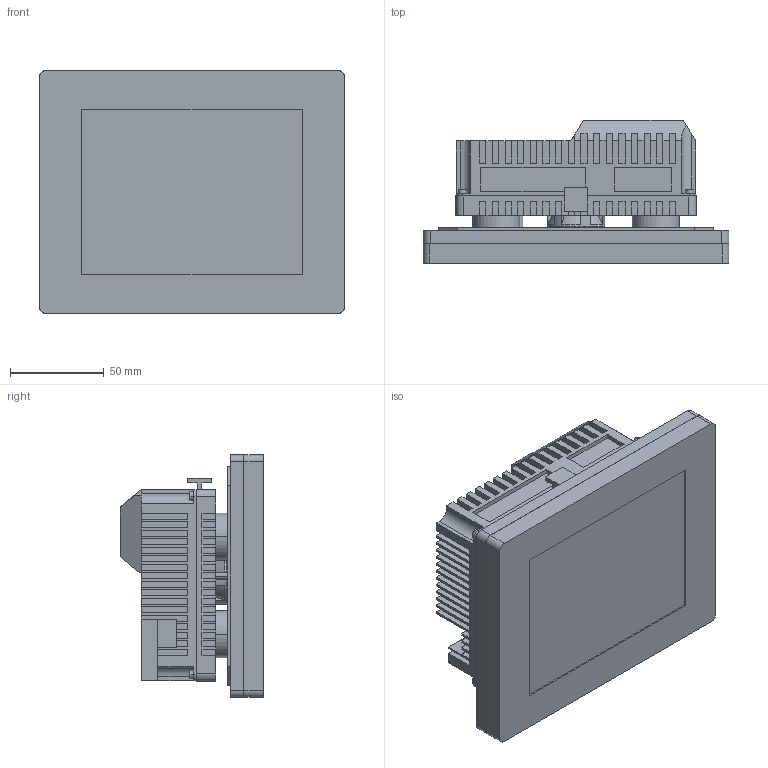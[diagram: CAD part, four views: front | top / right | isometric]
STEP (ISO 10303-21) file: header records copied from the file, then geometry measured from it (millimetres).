
FILE_DESCRIPTION(('starvars output'),'2;1');
FILE_NAME('cv20151130142933000028013.stp','14:29:34 2015/11/30',( 'Thomas Industrial Network Germany GmbH'),( 'Thomas Industrial Network Germany GmbH'),'unknown preprocess','ACIS' ,'unknown authorization');
FILE_SCHEMA(('AUTOMOTIVE_DESIGN_CC2 {UNKNOWN IMPLEMENTATION LEVEL}'));
Length unit declared in the file: millimetre
Products named in the file (1): PRODUCT_ID_1
Bounding box: 163 x 76.22 x 129.4 mm (x, y, z)
Volume: 893284.9 mm3; surface area: 116373.6 mm2
Topology: 4 solids, 5 shells, 1093 faces, 3082 edges, 2052 vertices
Faces by surface type: plane 885, cylinder 202, cone 6
Entity records: 42761 total; most frequent: ORIENTED_EDGE 6164, CARTESIAN_POINT 5990, DIRECTION 5339, EDGE_CURVE 3082, VECTOR 2509, LINE 2509, VERTEX_POINT 2052, AXIS2_PLACEMENT_3D 1415
